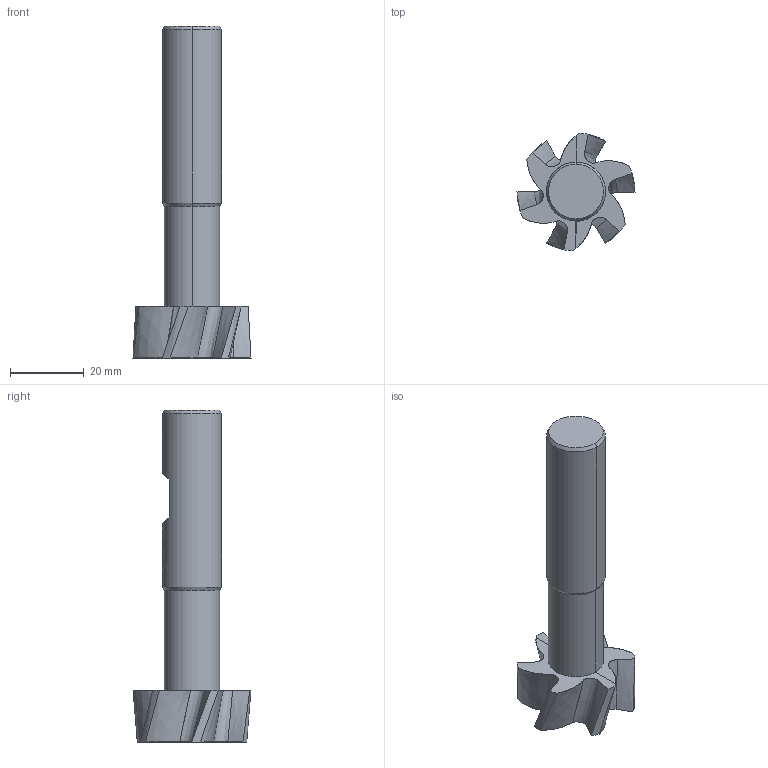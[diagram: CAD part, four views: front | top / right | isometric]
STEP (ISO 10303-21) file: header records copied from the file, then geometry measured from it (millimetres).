
FILE_DESCRIPTION(('no description'),'unknown implementation level');
FILE_NAME('solidchKAWPKurKdTMYdlq9tPAUik248_1.STP',' ',('CIMSOURCE GmbH'),('CADClick - KiM GmbH - www.kimweb.de'),'unknown preprocess','ACIS','unknown authorization');
FILE_SCHEMA(('automotive_design'));
Length unit declared in the file: millimetre
Products named in the file (2): NOCUT; CUT
Bounding box: 32 x 31.94 x 90 mm (x, y, z)
Volume: 21040.7 mm3; surface area: 9025.3 mm2
Topology: 2 solids, 2 shells, 118 faces, 330 edges, 216 vertices
Faces by surface type: bspline 72, cylinder 22, cone 12, plane 12
Entity records: 17892 total; most frequent: CARTESIAN_POINT 11748, STYLED_ITEM 666, PRESENTATION_STYLE_ASSIGNMENT 666, COLOUR_RGB 666, ORIENTED_EDGE 660, EDGE_CURVE 330, CURVE_STYLE 330, DRAUGHTING_PRE_DEFINED_CURVE_FONT 330
